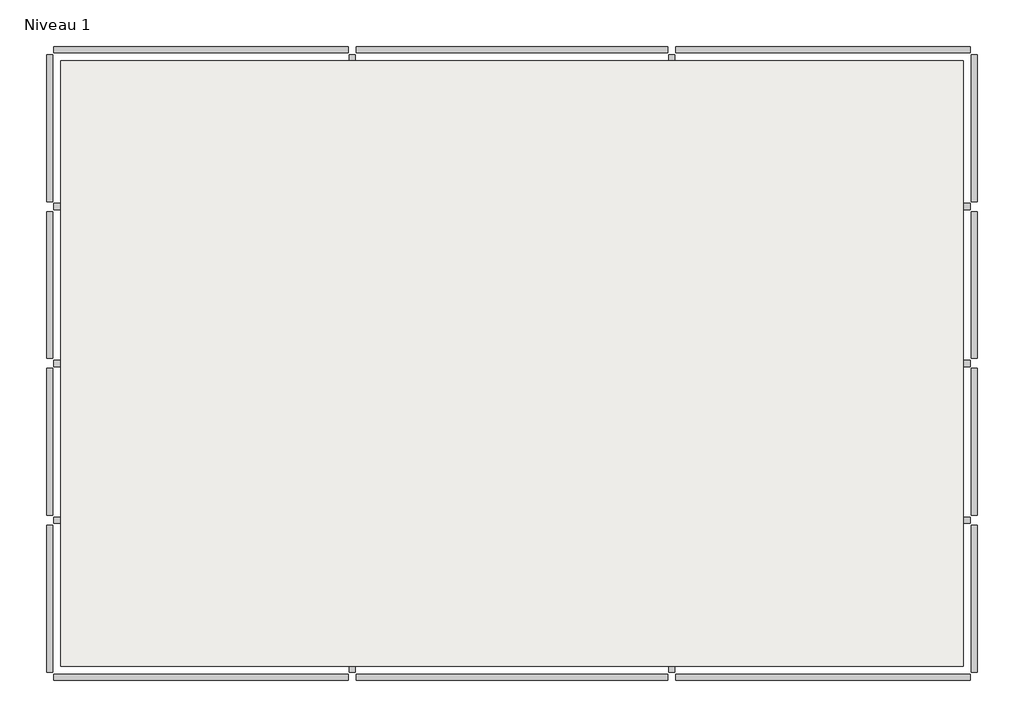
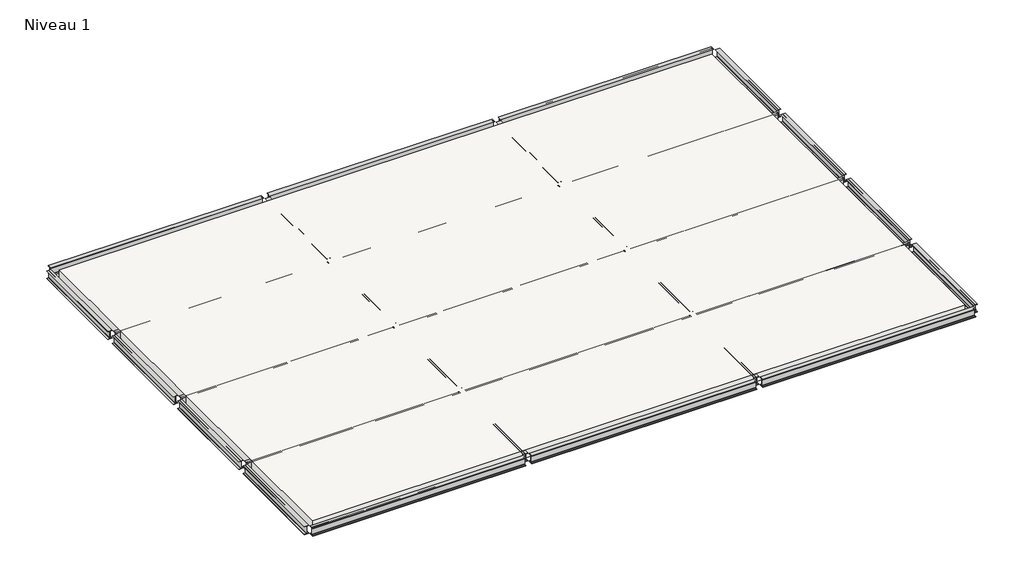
# One storey: 31 beams, 1 slab.
"""IFC4 building model written with IfcOpenShell, lengths in millimetres."""

from ifc_helpers import new_model, si_unit, frame, origin, place, context, project, spatial, polyline, outline, extrude, transform, mapped, element, save
from components import w_wide_flange_w12x26_fd16299b, w_wide_flange_w12x26_ebb6aad1, w_wide_flange_w12x26_57604207

model = new_model("IFC4")

# Units and contexts
model_context = context("Model", 3, world=origin())
ifc_project = project(units=[si_unit("LENGTHUNIT", "METRE", prefix="MILLI")], contexts=[model_context])

# Site, building, storey
site = spatial("IfcSite", under=ifc_project)
building = spatial("IfcBuilding", under=site)
storey = spatial("IfcBuildingStorey", under=building, Name="Niveau 1", Elevation=0.0)

# Beams
placement = place(None, origin())
w_wide_flange_w12x26_shape = w_wide_flange_w12x26_fd16299b(model_context)
element("IfcBeam", 1, ObjectType="W-Wide Flange : W12X26", at=placement, inside=storey, context=model_context, shape_type="MappedRepresentation", body=[
    mapped(w_wide_flange_w12x26_shape, transform((3119.9519861, 12392.6762973, -155.575), x_axis=(-1.0, 0.0, 0.0), y_axis=(0.0, -1.0, 0.0), z_axis=(0.0, 0.0, 1.0))),
])
element("IfcBeam", 2, ObjectType="W-Wide Flange : W12X26", at=placement, inside=storey, context=model_context, shape_type="MappedRepresentation", body=[
    mapped(w_wide_flange_w12x26_shape, transform((-13796.4480139, 12392.6762973, -155.575), x_axis=(-1.0, 0.0, 0.0), y_axis=(0.0, -1.0, 0.0), z_axis=(0.0, 0.0, 1.0))),
])
element("IfcBeam", 3, ObjectType="W-Wide Flange : W12X26", at=placement, inside=storey, context=model_context, shape_type="MappedRepresentation", body=[
    mapped(w_wide_flange_w12x26_shape, transform((3119.9519861, 8125.4762973, -155.575), x_axis=(-0.9999999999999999, 0.0, 0.0), y_axis=(0.0, -0.9999999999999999, 0.0), z_axis=(0.0, 0.0, 1.0))),
])
element("IfcBeam", 4, ObjectType="W-Wide Flange : W12X26", at=placement, inside=storey, context=model_context, shape_type="MappedRepresentation", body=[
    mapped(w_wide_flange_w12x26_shape, transform((-13796.4480139, 8125.4762973, -155.575), x_axis=(-1.0, 0.0, 0.0), y_axis=(0.0, -1.0, 0.0), z_axis=(0.0, 0.0, 1.0))),
])
element("IfcBeam", 5, ObjectType="W-Wide Flange : W12X26", at=placement, inside=storey, context=model_context, shape_type="MappedRepresentation", body=[
    mapped(w_wide_flange_w12x26_shape, transform((3119.9519861, 3858.2762973, -155.575), x_axis=(-1.0, 0.0, 0.0), y_axis=(0.0, -1.0, 0.0), z_axis=(0.0, 0.0, 1.0))),
])
element("IfcBeam", 6, ObjectType="W-Wide Flange : W12X26", at=placement, inside=storey, context=model_context, shape_type="MappedRepresentation", body=[
    mapped(w_wide_flange_w12x26_shape, transform((-13796.4480139, 3858.2762973, -155.575), x_axis=(-1.0, 0.0, 0.0), y_axis=(0.0, -1.0, 0.0), z_axis=(0.0, 0.0, 1.0))),
])
element("IfcBeam", 7, ObjectType="W-Wide Flange : W12X26", at=placement, inside=storey, context=model_context, shape_type="MappedRepresentation", body=[
    mapped(w_wide_flange_w12x26_shape, transform((3119.9519861, -408.9237027, -155.575), x_axis=(-1.0, 0.0, 0.0), y_axis=(0.0, -1.0, 0.0), z_axis=(0.0, 0.0, 1.0))),
])
element("IfcBeam", 8, ObjectType="W-Wide Flange : W12X26", at=placement, inside=storey, context=model_context, shape_type="MappedRepresentation", body=[
    mapped(w_wide_flange_w12x26_shape, transform((-13796.4480139, -408.9237027, -155.575), x_axis=(-0.9999999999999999, 0.0, 0.0), y_axis=(0.0, -0.9999999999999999, 0.0), z_axis=(0.0, 0.0, 1.0))),
])
element("IfcBeam", 9, ObjectType="W-Wide Flange : W12X26", at=placement, inside=storey, context=model_context, shape_type="MappedRepresentation", body=[
    mapped(w_wide_flange_w12x26_shape, transform((3119.9519861, -4676.1237027, -155.575), x_axis=(-1.0, 0.0, 0.0), y_axis=(0.0, -1.0, 0.0), z_axis=(0.0, 0.0, 1.0))),
])
element("IfcBeam", 10, ObjectType="W-Wide Flange : W12X26", at=placement, inside=storey, context=model_context, shape_type="MappedRepresentation", body=[
    mapped(w_wide_flange_w12x26_shape, transform((-13796.4480139, -4676.1237027, -155.575), x_axis=(-1.0, 0.0, 0.0), y_axis=(0.0, -1.0, 0.0), z_axis=(0.0, 0.0, 1.0))),
])
w_wide_flange_w12x26_2_shape = w_wide_flange_w12x26_ebb6aad1(model_context)
element("IfcBeam", 11, ObjectType="W-Wide Flange : W12X26", at=placement, inside=storey, context=model_context, shape_type="MappedRepresentation", body=[
    mapped(w_wide_flange_w12x26_2_shape, transform((-5338.2480139, 12392.6762973, -155.575), x_axis=(-1.0, 0.0, 0.0), y_axis=(0.0, -1.0, 0.0), z_axis=(0.0, 0.0, 1.0))),
])
element("IfcBeam", 12, ObjectType="W-Wide Flange : W12X26", at=placement, inside=storey, context=model_context, shape_type="MappedRepresentation", body=[
    mapped(w_wide_flange_w12x26_2_shape, transform((-5338.2480139, 8125.4762973, -155.575), x_axis=(-0.9999999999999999, 0.0, 0.0), y_axis=(0.0, -0.9999999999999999, 0.0), z_axis=(0.0, 0.0, 1.0))),
])
element("IfcBeam", 13, ObjectType="W-Wide Flange : W12X26", at=placement, inside=storey, context=model_context, shape_type="MappedRepresentation", body=[
    mapped(w_wide_flange_w12x26_2_shape, transform((-5338.2480139, 3858.2762973, -155.575), x_axis=(-1.0, 0.0, 0.0), y_axis=(0.0, -1.0, 0.0), z_axis=(0.0, 0.0, 1.0))),
])
element("IfcBeam", 14, ObjectType="W-Wide Flange : W12X26", at=placement, inside=storey, context=model_context, shape_type="MappedRepresentation", body=[
    mapped(w_wide_flange_w12x26_2_shape, transform((-5338.2480139, -408.9237027, -155.575), x_axis=(-1.0, 0.0, 0.0), y_axis=(0.0, -1.0, 0.0), z_axis=(0.0, 0.0, 1.0))),
])
element("IfcBeam", 15, ObjectType="W-Wide Flange : W12X26", at=placement, inside=storey, context=model_context, shape_type="MappedRepresentation", body=[
    mapped(w_wide_flange_w12x26_2_shape, transform((-5338.2480139, -4676.1237027, -155.575), x_axis=(-1.0, 0.0, 0.0), y_axis=(0.0, -1.0, 0.0), z_axis=(0.0, 0.0, 1.0))),
])
w_wide_flange_w12x26_3_shape = w_wide_flange_w12x26_57604207(model_context)
element("IfcBeam", 16, ObjectType="W-Wide Flange : W12X26", at=placement, inside=storey, context=model_context, shape_type="MappedRepresentation", body=[
    mapped(w_wide_flange_w12x26_3_shape, transform((-17911.2480139, -2542.5237027, -155.575), x_axis=(0.0, 1.0, 0.0), y_axis=(-1.0, 0.0, 0.0), z_axis=(0.0, 0.0, 1.0))),
])
element("IfcBeam", 17, ObjectType="W-Wide Flange : W12X26", at=placement, inside=storey, context=model_context, shape_type="MappedRepresentation", body=[
    mapped(w_wide_flange_w12x26_3_shape, transform((-17911.2480139, 1724.6762973, -155.575), x_axis=(0.0, 1.0, 0.0), y_axis=(-1.0, 0.0, 0.0), z_axis=(0.0, 0.0, 1.0))),
])
element("IfcBeam", 18, ObjectType="W-Wide Flange : W12X26", at=placement, inside=storey, context=model_context, shape_type="MappedRepresentation", body=[
    mapped(w_wide_flange_w12x26_3_shape, transform((-17911.2480139, 5991.8762973, -155.575), x_axis=(0.0, 1.0, 0.0), y_axis=(-1.0, 0.0, 0.0), z_axis=(0.0, 0.0, 1.0))),
])
element("IfcBeam", 19, ObjectType="W-Wide Flange : W12X26", at=placement, inside=storey, context=model_context, shape_type="MappedRepresentation", body=[
    mapped(w_wide_flange_w12x26_3_shape, transform((-17911.2480139, 10259.0762973, -155.575), x_axis=(0.0, 1.0, 0.0), y_axis=(-1.0, 0.0, 0.0), z_axis=(0.0, 0.0, 1.0))),
])
element("IfcBeam", 20, ObjectType="W-Wide Flange : W12X26", at=placement, inside=storey, context=model_context, shape_type="MappedRepresentation", body=[
    mapped(w_wide_flange_w12x26_3_shape, transform((-9681.6480139, -2542.5237027, -155.575), x_axis=(0.0, 0.9999999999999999, 0.0), y_axis=(-0.9999999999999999, 0.0, 0.0), z_axis=(0.0, 0.0, 1.0))),
])
element("IfcBeam", 21, ObjectType="W-Wide Flange : W12X26", at=placement, inside=storey, context=model_context, shape_type="MappedRepresentation", body=[
    mapped(w_wide_flange_w12x26_3_shape, transform((-9681.6480139, 1724.6762973, -155.575), x_axis=(0.0, 1.0, 0.0), y_axis=(-1.0, 0.0, 0.0), z_axis=(0.0, 0.0, 1.0))),
])
element("IfcBeam", 22, ObjectType="W-Wide Flange : W12X26", at=placement, inside=storey, context=model_context, shape_type="MappedRepresentation", body=[
    mapped(w_wide_flange_w12x26_3_shape, transform((-9681.6480139, 5991.8762973, -155.575), x_axis=(0.0, 1.0, 0.0), y_axis=(-1.0, 0.0, 0.0), z_axis=(0.0, 0.0, 1.0))),
])
element("IfcBeam", 23, ObjectType="W-Wide Flange : W12X26", at=placement, inside=storey, context=model_context, shape_type="MappedRepresentation", body=[
    mapped(w_wide_flange_w12x26_3_shape, transform((-9681.6480139, 10259.0762973, -155.575), x_axis=(0.0, 1.0, 0.0), y_axis=(-1.0, 0.0, 0.0), z_axis=(0.0, 0.0, 1.0))),
])
element("IfcBeam", 24, ObjectType="W-Wide Flange : W12X26", at=placement, inside=storey, context=model_context, shape_type="MappedRepresentation", body=[
    mapped(w_wide_flange_w12x26_3_shape, transform((-994.8480139, -2542.5237027, -155.575), x_axis=(0.0, 1.0, 0.0), y_axis=(-1.0, 0.0, 0.0), z_axis=(0.0, 0.0, 1.0))),
])
element("IfcBeam", 25, ObjectType="W-Wide Flange : W12X26", at=placement, inside=storey, context=model_context, shape_type="MappedRepresentation", body=[
    mapped(w_wide_flange_w12x26_3_shape, transform((-994.8480139, 1724.6762973, -155.575), x_axis=(0.0, 0.9999999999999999, 0.0), y_axis=(-0.9999999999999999, 0.0, 0.0), z_axis=(0.0, 0.0, 1.0))),
])
element("IfcBeam", 26, ObjectType="W-Wide Flange : W12X26", at=placement, inside=storey, context=model_context, shape_type="MappedRepresentation", body=[
    mapped(w_wide_flange_w12x26_3_shape, transform((-994.8480139, 5991.8762973, -155.575), x_axis=(0.0, 1.0, 0.0), y_axis=(-1.0, 0.0, 0.0), z_axis=(0.0, 0.0, 1.0))),
])
element("IfcBeam", 27, ObjectType="W-Wide Flange : W12X26", at=placement, inside=storey, context=model_context, shape_type="MappedRepresentation", body=[
    mapped(w_wide_flange_w12x26_3_shape, transform((-994.8480139, 10259.0762973, -155.575), x_axis=(0.0, 1.0, 0.0), y_axis=(-1.0, 0.0, 0.0), z_axis=(0.0, 0.0, 1.0))),
])
element("IfcBeam", 28, ObjectType="W-Wide Flange : W12X26", at=placement, inside=storey, context=model_context, shape_type="MappedRepresentation", body=[
    mapped(w_wide_flange_w12x26_3_shape, transform((7234.7519861, -2542.5237027, -155.575), x_axis=(0.0, 1.0, 0.0), y_axis=(-1.0, 0.0, 0.0), z_axis=(0.0, 0.0, 1.0))),
])
element("IfcBeam", 29, ObjectType="W-Wide Flange : W12X26", at=placement, inside=storey, context=model_context, shape_type="MappedRepresentation", body=[
    mapped(w_wide_flange_w12x26_3_shape, transform((7234.7519861, 1724.6762973, -155.575), x_axis=(0.0, 1.0, 0.0), y_axis=(-1.0, 0.0, 0.0), z_axis=(0.0, 0.0, 1.0))),
])
element("IfcBeam", 30, ObjectType="W-Wide Flange : W12X26", at=placement, inside=storey, context=model_context, shape_type="MappedRepresentation", body=[
    mapped(w_wide_flange_w12x26_3_shape, transform((7234.7519861, 5991.8762973, -155.575), x_axis=(0.0, 1.0, 0.0), y_axis=(-1.0, 0.0, 0.0), z_axis=(0.0, 0.0, 1.0))),
])
element("IfcBeam", 31, ObjectType="W-Wide Flange : W12X26", at=placement, inside=storey, context=model_context, shape_type="MappedRepresentation", body=[
    mapped(w_wide_flange_w12x26_3_shape, transform((7234.7519861, 10259.0762973, -155.575), x_axis=(0.0, 1.0, 0.0), y_axis=(-1.0, 0.0, 0.0), z_axis=(0.0, 0.0, 1.0))),
])

# Slab
element("IfcSlab", 32, ObjectType="Generic - 12\"", at=placement, inside=storey, context=model_context, shape_type="SweptSolid", body=[
    extrude(outline(polyline([(-17606.4480139, 12087.8762973), (-9681.6480139, 12087.8762973), (-994.8480139, 12087.8762973), (6929.9519861, 12087.8762973), (6929.9519861, 8125.4762973), (6929.9519861, 3858.2762973), (6929.9519861, -408.9237027), (6929.9519861, -4371.3237027), (-994.8480139, -4371.3237027), (-9681.6480139, -4371.3237027), (-17606.4480139, -4371.3237027), (-17606.4480139, -408.9237027), (-17606.4480139, 3858.2762973), (-17606.4480139, 8125.4762973), (-17606.4480139, 12087.8762973)])), frame((0.0, 0.0, -304.8), z_axis=(0.0, 0.0, 1.0), x_axis=(1.0, 0.0, 0.0)), (0.0, 0.0, 1.0), 304.8),
])

save(model, "model.ifc")
